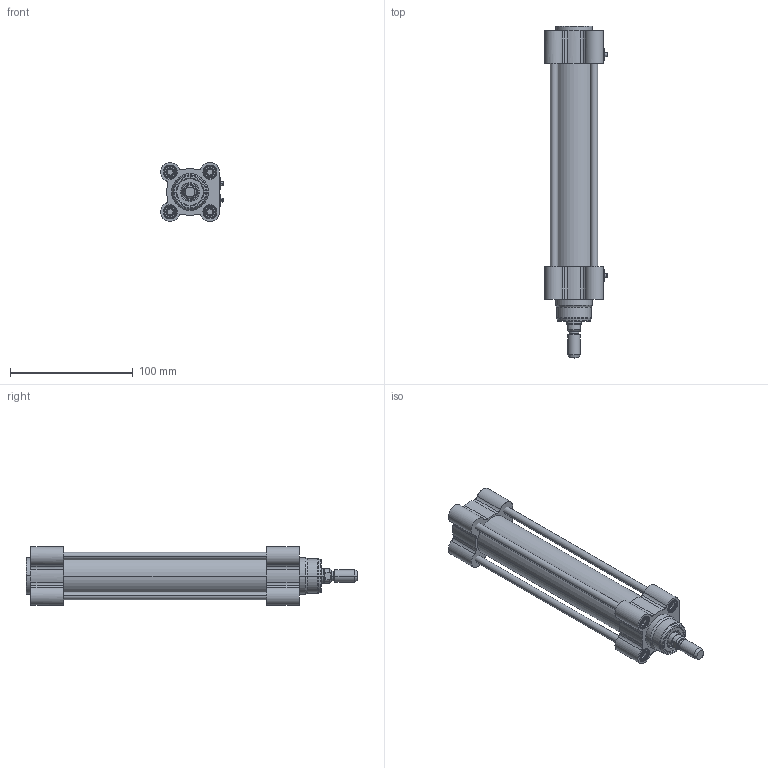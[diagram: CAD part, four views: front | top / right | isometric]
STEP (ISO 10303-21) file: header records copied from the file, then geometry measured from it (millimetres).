
FILE_DESCRIPTION (( 'STEP AP203' ), '1' );
FILE_NAME ('CTMI32-125.STEP', '2020-03-26T19:04:44', ( '' ), ( '' ), 'SwSTEP 2.0', 'SolidWorks 2019', '' );
FILE_SCHEMA (( 'CONFIG_CONTROL_DESIGN' ));
Length unit declared in the file: millimetre
Products named in the file (1): CTMI32-125
Bounding box: 51.2 x 271 x 48 mm (x, y, z)
Surface area: 96856.3 mm2 (no closed solid volume)
Topology: 0 solids, 27 shells, 706 faces, 1614 edges, 990 vertices
Faces by surface type: cylinder 207, cone 203, plane 192, torus 88, bspline 16
Entity records: 25729 total; most frequent: CARTESIAN_POINT 10948, ORIENTED_EDGE 3172, DIRECTION 2802, EDGE_CURVE 1614, AXIS2_PLACEMENT_3D 1166, VERTEX_POINT 990, EDGE_LOOP 776, FACE_OUTER_BOUND 706
